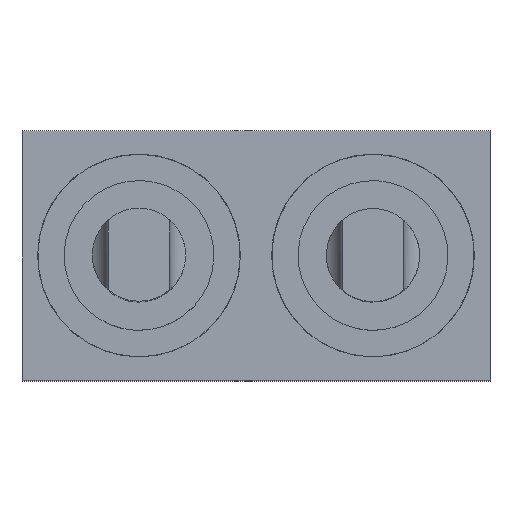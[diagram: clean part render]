
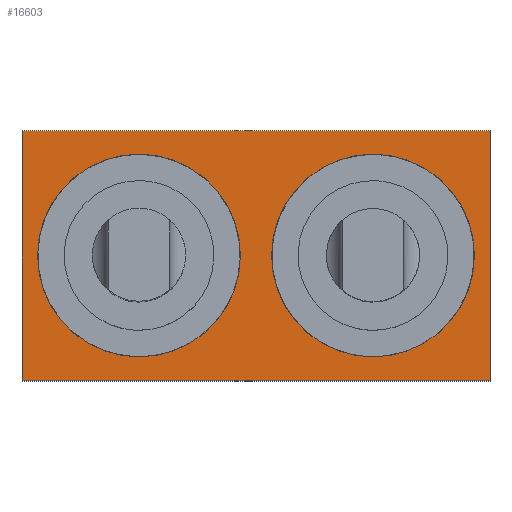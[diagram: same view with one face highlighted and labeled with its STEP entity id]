
A CAD part, top view. The second image highlights one B-rep face of the part: STEP entity #16603.
In plain terms, the highlighted planar face has unit normal (0, 0, 1).
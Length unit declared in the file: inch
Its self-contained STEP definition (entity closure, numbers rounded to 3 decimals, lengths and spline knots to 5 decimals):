
#672 = DIRECTION ( 'NONE',  ( 0., 0., 1. ) ) ;
#712 = EDGE_CURVE ( 'NONE', #1248, #17061, #17180, .T. ) ;
#811 = CARTESIAN_POINT ( 'NONE',  ( -0.9375, 0.5, 0. ) ) ;
#960 = LINE ( 'NONE', #811, #13854 ) ;
#1248 = VERTEX_POINT ( 'NONE', #12889 ) ;
#1394 = EDGE_CURVE ( 'NONE', #5680, #7394, #13882, .T. ) ;
#1954 = EDGE_CURVE ( 'NONE', #15643, #7290, #12170, .T. ) ;
#2436 = AXIS2_PLACEMENT_3D ( 'NONE', #16714, #16767, #4181 ) ;
#2788 = EDGE_LOOP ( 'NONE', ( #7021, #14047 ) ) ;
#2958 = FACE_OUTER_BOUND ( 'NONE', #11143, .T. ) ;
#3037 = AXIS2_PLACEMENT_3D ( 'NONE', #8907, #672, #10289 ) ;
#3599 = DIRECTION ( 'NONE',  ( 0., -1., 0. ) ) ;
#4181 = DIRECTION ( 'NONE',  ( 1., 0., 0. ) ) ;
#4212 = DIRECTION ( 'NONE',  ( 0., 0., 1. ) ) ;
#4429 = AXIS2_PLACEMENT_3D ( 'NONE', #14011, #5754, #15441 ) ;
#5053 = EDGE_CURVE ( 'NONE', #15447, #9041, #8458, .T. ) ;
#5098 = CARTESIAN_POINT ( 'NONE',  ( -0.9375, 0.5, 0. ) ) ;
#5211 = DIRECTION ( 'NONE',  ( -1., 0., 0. ) ) ;
#5680 = VERTEX_POINT ( 'NONE', #15932 ) ;
#5754 = DIRECTION ( 'NONE',  ( 0., 0., 1. ) ) ;
#5979 = CARTESIAN_POINT ( 'NONE',  ( 0.9375, -0.5, 0. ) ) ;
#6102 = LINE ( 'NONE', #17402, #12988 ) ;
#6241 = PLANE ( 'NONE',  #13531 ) ;
#6615 = FACE_BOUND ( 'NONE', #2788, .T. ) ;
#6637 = EDGE_LOOP ( 'NONE', ( #12871, #10195 ) ) ;
#6690 = EDGE_CURVE ( 'NONE', #9041, #15447, #10166, .T. ) ;
#7021 = ORIENTED_EDGE ( 'NONE', *, *, #1394, .F. ) ;
#7290 = VERTEX_POINT ( 'NONE', #5979 ) ;
#7394 = VERTEX_POINT ( 'NONE', #10384 ) ;
#7609 = DIRECTION ( 'NONE',  ( 1., 0., 0. ) ) ;
#8365 = CIRCLE ( 'NONE', #17642, 0.40625 ) ;
#8458 = CIRCLE ( 'NONE', #3037, 0.40625 ) ;
#8907 = CARTESIAN_POINT ( 'NONE',  ( -0.46875, 0., 0. ) ) ;
#9041 = VERTEX_POINT ( 'NONE', #11115 ) ;
#9209 = CARTESIAN_POINT ( 'NONE',  ( -0.9375, -0.5, 0. ) ) ;
#9346 = EDGE_CURVE ( 'NONE', #7290, #1248, #6102, .T. ) ;
#9414 = ORIENTED_EDGE ( 'NONE', *, *, #712, .T. ) ;
#9431 = FACE_BOUND ( 'NONE', #6637, .T. ) ;
#9937 = EDGE_CURVE ( 'NONE', #17061, #15643, #960, .T. ) ;
#10166 = CIRCLE ( 'NONE', #4429, 0.40625 ) ;
#10195 = ORIENTED_EDGE ( 'NONE', *, *, #6690, .F. ) ;
#10289 = DIRECTION ( 'NONE',  ( 1., 0., 0. ) ) ;
#10384 = CARTESIAN_POINT ( 'NONE',  ( 0.0625, 0., 0. ) ) ;
#10777 = DIRECTION ( 'NONE',  ( 1., 0., 0. ) ) ;
#11115 = CARTESIAN_POINT ( 'NONE',  ( -0.875, 0., 0. ) ) ;
#11143 = EDGE_LOOP ( 'NONE', ( #16333, #17459, #14320, #9414 ) ) ;
#11737 = VECTOR ( 'NONE', #10777, 39.37008 ) ;
#11870 = DIRECTION ( 'NONE',  ( 0., 1., 0. ) ) ;
#12170 = LINE ( 'NONE', #9209, #11737 ) ;
#12469 = CARTESIAN_POINT ( 'NONE',  ( 0.46875, 0., 0. ) ) ;
#12871 = ORIENTED_EDGE ( 'NONE', *, *, #5053, .F. ) ;
#12889 = CARTESIAN_POINT ( 'NONE',  ( 0.9375, 0.5, 0. ) ) ;
#12988 = VECTOR ( 'NONE', #11870, 39.37008 ) ;
#13531 = AXIS2_PLACEMENT_3D ( 'NONE', #14518, #15929, #7609 ) ;
#13623 = CARTESIAN_POINT ( 'NONE',  ( -0.9375, -0.5, 0. ) ) ;
#13854 = VECTOR ( 'NONE', #3599, 39.37008 ) ;
#13855 = DIRECTION ( 'NONE',  ( 1., 0., 0. ) ) ;
#13882 = CIRCLE ( 'NONE', #2436, 0.40625 ) ;
#14011 = CARTESIAN_POINT ( 'NONE',  ( -0.46875, 0., 0. ) ) ;
#14047 = ORIENTED_EDGE ( 'NONE', *, *, #16320, .F. ) ;
#14320 = ORIENTED_EDGE ( 'NONE', *, *, #9346, .T. ) ;
#14518 = CARTESIAN_POINT ( 'NONE',  ( -0.9375, -0.5, 0. ) ) ;
#15441 = DIRECTION ( 'NONE',  ( 1., 0., 0. ) ) ;
#15447 = VERTEX_POINT ( 'NONE', #16036 ) ;
#15643 = VERTEX_POINT ( 'NONE', #13623 ) ;
#15914 = CARTESIAN_POINT ( 'NONE',  ( -0.9375, 0.5, 0. ) ) ;
#15929 = DIRECTION ( 'NONE',  ( 0., 0., 1. ) ) ;
#15932 = CARTESIAN_POINT ( 'NONE',  ( 0.875, 0., 0. ) ) ;
#16036 = CARTESIAN_POINT ( 'NONE',  ( -0.0625, 0., 0. ) ) ;
#16320 = EDGE_CURVE ( 'NONE', #7394, #5680, #8365, .T. ) ;
#16333 = ORIENTED_EDGE ( 'NONE', *, *, #9937, .T. ) ;
#16603 = ADVANCED_FACE ( 'NONE', ( #9431, #6615, #2958 ), #6241, .T. ) ;
#16714 = CARTESIAN_POINT ( 'NONE',  ( 0.46875, 0., 0. ) ) ;
#16767 = DIRECTION ( 'NONE',  ( 0., 0., 1. ) ) ;
#17061 = VERTEX_POINT ( 'NONE', #15914 ) ;
#17180 = LINE ( 'NONE', #5098, #17621 ) ;
#17402 = CARTESIAN_POINT ( 'NONE',  ( 0.9375, 0.5, 0. ) ) ;
#17459 = ORIENTED_EDGE ( 'NONE', *, *, #1954, .T. ) ;
#17621 = VECTOR ( 'NONE', #5211, 39.37008 ) ;
#17642 = AXIS2_PLACEMENT_3D ( 'NONE', #12469, #4212, #13855 ) ;
